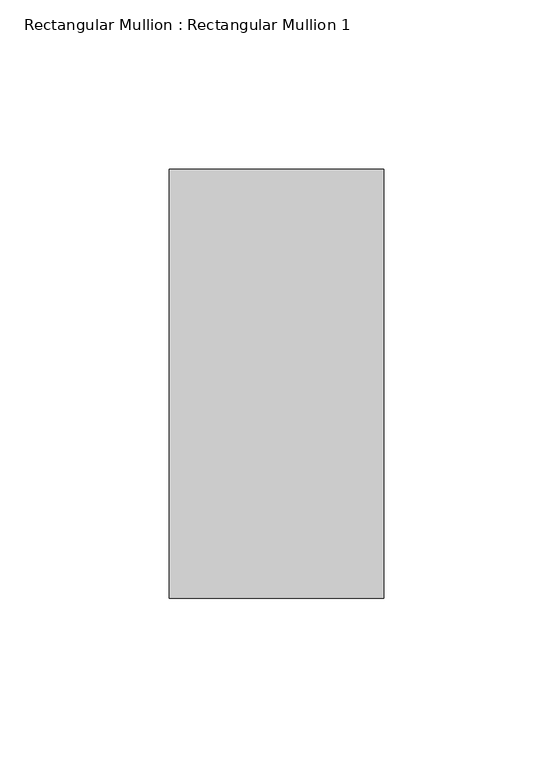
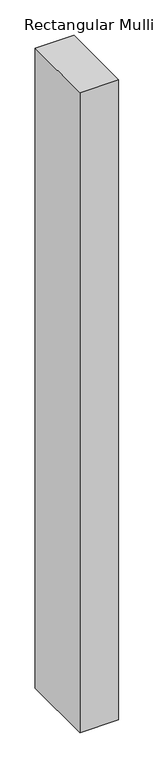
"""IFC4 building model written with IfcOpenShell, lengths in millimetres: member geometry, Rectangular Mullion : Rectangular Mullion 1."""

from ifc_helpers import new_model, si_unit, frame, origin, place, context, project, spatial, polyline, outline, extrude, source, transform, mapped, element, save


def rectangular_mullion_rectangular_mullion_1_71bdcf0b(model_context):
    return source(origin(), model_context, "Body", "SweptSolid", [
        extrude(outline(polyline([(0.0, 63.5), (0.0, -63.5), (-63.5, -63.5), (-63.5, 63.5), (0.0, 63.5)])), frame((0.0, 0.0, -1108.098184), z_axis=(0.0, 0.0, 1.0), x_axis=(1.0, 0.0, 0.0)), (0.0, 0.0, 1.0), 1108.098184),
    ])


if __name__ == "__main__":
    model = new_model("IFC4")
    model_context = context("Model", 3, world=origin())
    ifc_project = project(units=[si_unit("LENGTHUNIT", "METRE", prefix="MILLI")], contexts=[model_context])
    site = spatial("IfcSite", under=ifc_project)
    building = spatial("IfcBuilding", under=site)
    placement = place(None, origin())
    rectangular_mullion_rectangular_mullion_1_shape = rectangular_mullion_rectangular_mullion_1_71bdcf0b(model_context)
    element("IfcMember", 1, ObjectType="Rectangular Mullion : Rectangular Mullion 1", at=placement, inside=building, context=model_context, shape_type="MappedRepresentation", body=[
        mapped(rectangular_mullion_rectangular_mullion_1_shape, transform((0.0, 0.0, 0.0), x_axis=(1.0, 0.0, 0.0), y_axis=(0.0, 1.0, 0.0), z_axis=(0.0, 0.0, 1.0))),
    ])
    save(model, "model.ifc")
